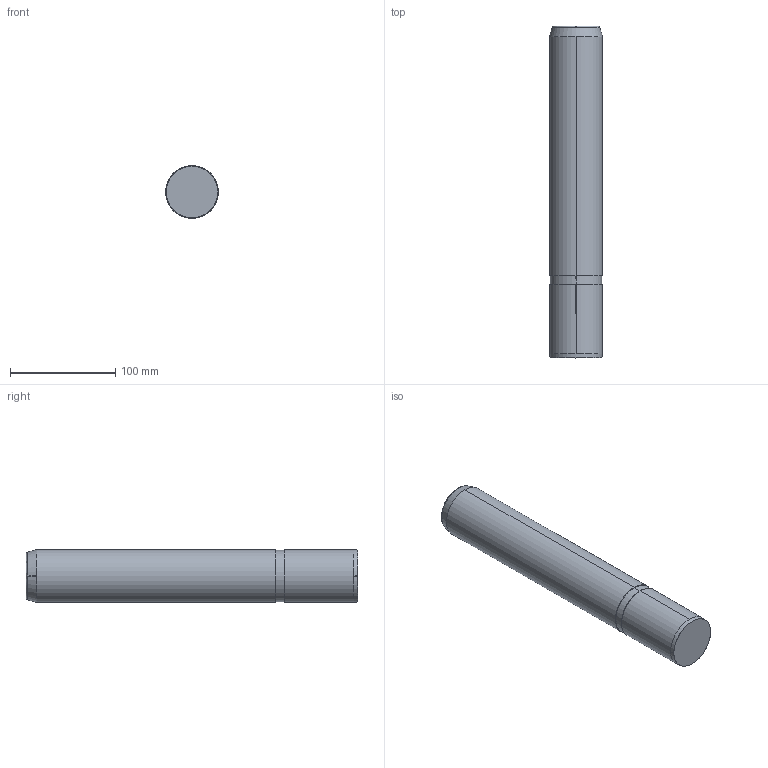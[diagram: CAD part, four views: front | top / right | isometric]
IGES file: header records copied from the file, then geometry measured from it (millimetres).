
Start section: SolidWorks IGES file using analytic representation for surfaces
Global section: file name: C:\Users\Dell\Desktop\deltakont\hatalýlar\D13.02\Ø50\D13.02_50315.igs; native system: SolidWorks 2010; preprocessor: SolidWorks 2010; author: Dell; date: 111225.191011; units: millimetre
Bounding box: 50 x 315 x 50 mm (x, y, z)
Surface area: 52986.4 mm2 (no closed solid volume)
Topology: 0 solids, 0 shells, 16 faces, 436 edges, 436 vertices
Faces by surface type: revolution 10, bspline 6
